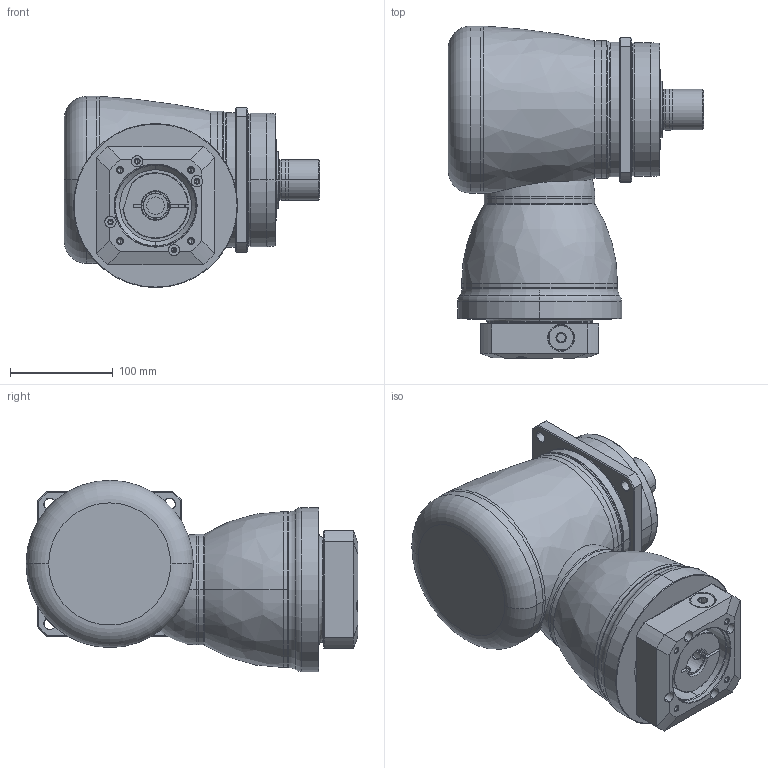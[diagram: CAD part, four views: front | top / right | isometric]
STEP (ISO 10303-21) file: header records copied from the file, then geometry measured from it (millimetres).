
FILE_DESCRIPTION((''),'2;1');
FILE_NAME('KF140_S3_1ST_24-P0409500101_ASM','2016-07-04T',('d01943'),(''),'PRO/ENGINEER BY PARAMETRIC TECHNOLOGY CORPORATION, 2008410','PRO/ENGINEER BY PARAMETRIC TECHNOLOGY CORPORATION, 2008410','');
FILE_SCHEMA(('CONFIG_CONTROL_DESIGN'));
Length unit declared in the file: millimetre
Products named in the file (11): P1008500002; P1804500001; P0915502001; P1315500001; P1007500001; P1318500001; P0409500101; P0503500010; P0912500201; 21711418017; KF140_S3_1ST_24-P0409500101_ASM
Assembly tree (10 placements, depth 2):
  KF140_S3_1ST_24-P0409500101_ASM
    P1008500002
    P1804500001
    P0915502001
    P1315500001
    P1007500001
    P1318500001
    P0409500101
    P0503500010
    P0912500201
    21711418017
Bounding box: 249 x 323.5 x 186.5 mm (x, y, z)
Volume: 5806958.9 mm3; surface area: 473280.3 mm2
Topology: 11 solids, 11 shells, 468 faces, 1056 edges, 623 vertices
Faces by surface type: cylinder 158, cone 130, plane 95, torus 64, bspline 19, sphere 2
Entity records: 18176 total; most frequent: CARTESIAN_POINT 7448, DIRECTION 2379, ORIENTED_EDGE 2072, EDGE_CURVE 1036, AXIS2_PLACEMENT_3D 1006, VERTEX_POINT 623, CIRCLE 536, EDGE_LOOP 533
